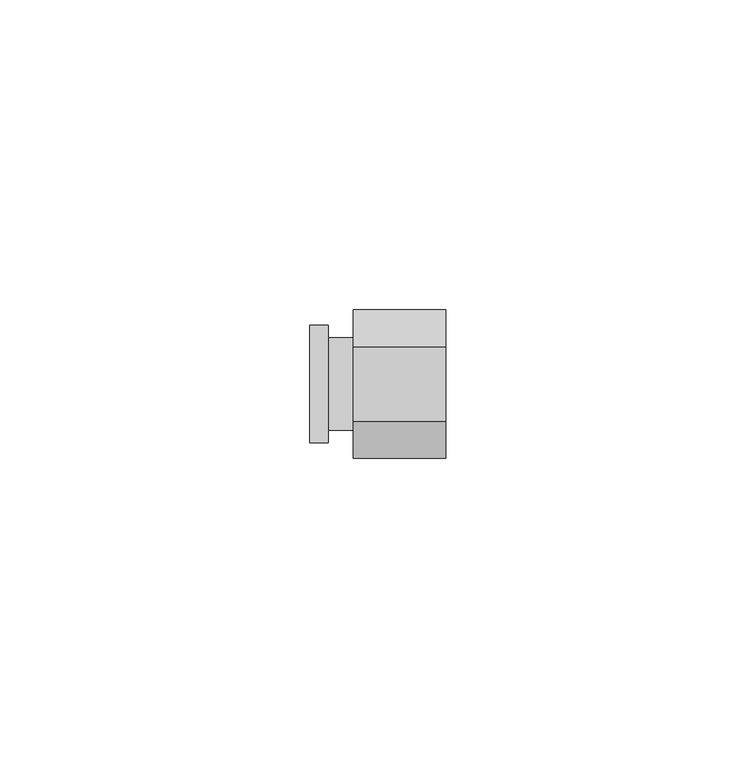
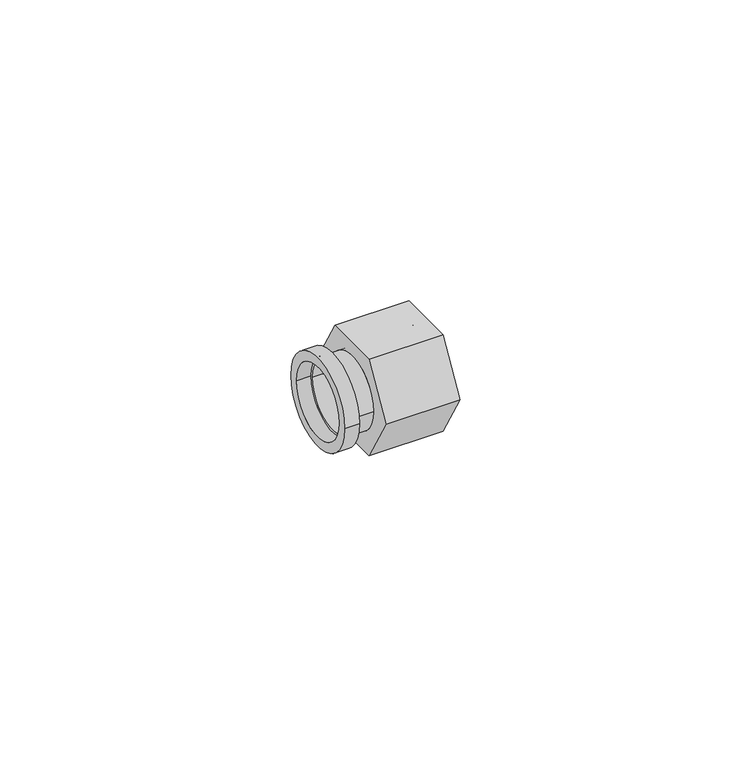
"""IFC4 building model written with IfcOpenShell, lengths in millimetres: pipe fitting geometry, БИР ПЕКС_КМП_Соединитель_Резьба_Наружная : Соединитель прямой с наружной резьбой_КМП."""

from ifc_helpers import new_model, si_unit, point, frame, origin, origin_2d, place, context, project, spatial, polyline, circle_curve, trimmed, segment, composite_curve, outline, extrude, source, transform, mapped, element, save


def pipe_fitting_9e4dff9f(model_context):
    return source(origin(), model_context, "Body", "SweptSolid", [
        extrude(outline(polyline([(-6.0, -10.3923048), (-12.0, 0.0), (-6.0, 10.3923048), (6.0, 10.3923048), (12.0, 0.0), (6.0, -10.3923048), (-6.0, -10.3923048)]), holes=[composite_curve([segment(trimmed(circle_curve(origin_2d(), 7.5), [point((-7.5, 0.0))], [point((7.5, 0.0))], True, "CARTESIAN"), True, "CONTINUOUS"), segment(trimmed(circle_curve(origin_2d(), 7.5), [point((7.5, 0.0))], [point((-7.5, 0.0))], True, "CARTESIAN"), True, "CONTINUOUS")], self_intersect=False)]), frame((0.0, 0.0, 0.0), z_axis=(1.0, 0.0, 0.0), x_axis=(0.0, 1.0, 0.0)), (0.0, 0.0, 1.0), 15.0),
        extrude(outline(composite_curve([segment(trimmed(circle_curve(origin_2d(), 7.5), [point((-7.5, 0.0))], [point((7.5, 0.0))], False, "CARTESIAN"), True, "CONTINUOUS"), segment(trimmed(circle_curve(origin_2d(), 7.5), [point((7.5, 0.0))], [point((-7.5, 0.0))], False, "CARTESIAN"), True, "CONTINUOUS")], self_intersect=False), holes=[composite_curve([segment(trimmed(circle_curve(origin_2d(), 7.0), [point((-7.0, 0.0))], [point((7.0, 0.0))], True, "CARTESIAN"), True, "CONTINUOUS"), segment(trimmed(circle_curve(origin_2d(), 7.0), [point((7.0, 0.0))], [point((-7.0, 0.0))], True, "CARTESIAN"), True, "CONTINUOUS")], self_intersect=False)]), frame((-4.0, 0.0, 0.0), z_axis=(1.0, 0.0, 0.0), x_axis=(0.0, 1.0, 0.0)), (0.0, 0.0, 1.0), 4.0),
        extrude(outline(composite_curve([segment(trimmed(circle_curve(origin_2d(), 9.5), [point((-9.5, 0.0))], [point((9.5, 0.0))], False, "CARTESIAN"), True, "CONTINUOUS"), segment(trimmed(circle_curve(origin_2d(), 9.5), [point((9.5, 0.0))], [point((-9.5, 0.0))], False, "CARTESIAN"), True, "CONTINUOUS")], self_intersect=False), holes=[composite_curve([segment(trimmed(circle_curve(origin_2d(), 7.5), [point((-7.5, 0.0))], [point((7.5, 0.0))], True, "CARTESIAN"), True, "CONTINUOUS"), segment(trimmed(circle_curve(origin_2d(), 7.5), [point((7.5, 0.0))], [point((-7.5, 0.0))], True, "CARTESIAN"), True, "CONTINUOUS")], self_intersect=False)]), frame((-7.0, 0.0, 0.0), z_axis=(1.0, 0.0, 0.0), x_axis=(0.0, 1.0, 0.0)), (0.0, 0.0, 1.0), 3.0),
    ])


if __name__ == "__main__":
    model = new_model("IFC4")
    model_context = context("Model", 3, world=origin())
    ifc_project = project(units=[si_unit("LENGTHUNIT", "METRE", prefix="MILLI")], contexts=[model_context])
    site = spatial("IfcSite", under=ifc_project)
    building = spatial("IfcBuilding", under=site)
    placement = place(None, origin())
    pipe_fitting_shape = pipe_fitting_9e4dff9f(model_context)
    element("IfcPipeFitting", 1, ObjectType="БИР ПЕКС_КМП_Соединитель_Резьба_Наружная : Соединитель прямой с наружной резьбой_КМП", at=placement, inside=building, context=model_context, shape_type="MappedRepresentation", body=[
        mapped(pipe_fitting_shape, transform((0.0, 0.0, 0.0), x_axis=(1.0, 0.0, 0.0), y_axis=(0.0, 1.0, 0.0), z_axis=(0.0, 0.0, 1.0))),
    ])
    save(model, "model.ifc")
